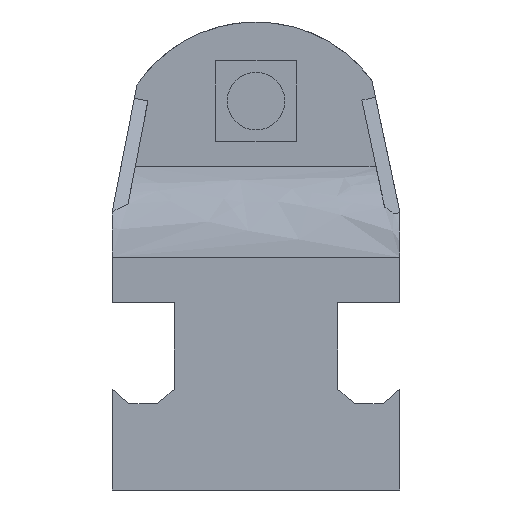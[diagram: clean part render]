
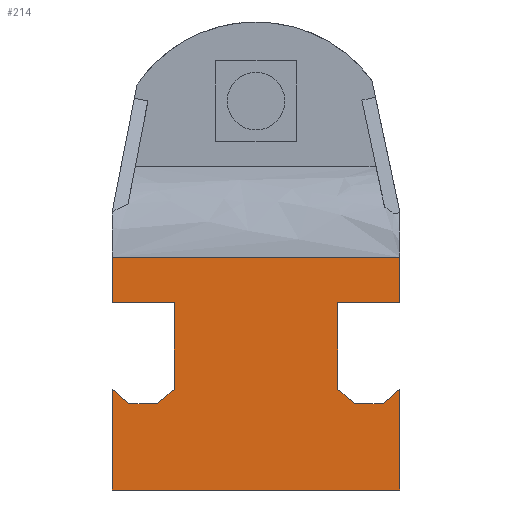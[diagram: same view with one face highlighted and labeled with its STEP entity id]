
A CAD part, front view. The second image highlights one B-rep face of the part: STEP entity #214.
In plain terms, the highlighted planar face has unit normal (0, -1, 0).
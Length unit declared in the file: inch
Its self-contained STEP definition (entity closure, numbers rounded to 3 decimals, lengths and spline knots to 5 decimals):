
#214=ADVANCED_FACE('',(#475),#476,.T.);
#475=FACE_OUTER_BOUND('',#845,.T.);
#476=PLANE('',#846);
#845=EDGE_LOOP('',(#1393,#1394,#1395,#1396,#1397,#1398,#1399,#1400,#1401,#1402,#1403,#1404,#1405,#1406,#1407,#1408));
#846=AXIS2_PLACEMENT_3D('',#1409,#1410,#1411);
#1393=ORIENTED_EDGE('',*,*,#2172,.T.);
#1394=ORIENTED_EDGE('',*,*,#2173,.T.);
#1395=ORIENTED_EDGE('',*,*,#2174,.T.);
#1396=ORIENTED_EDGE('',*,*,#2175,.T.);
#1397=ORIENTED_EDGE('',*,*,#2081,.T.);
#1398=ORIENTED_EDGE('',*,*,#2098,.T.);
#1399=ORIENTED_EDGE('',*,*,#2111,.T.);
#1400=ORIENTED_EDGE('',*,*,#2141,.F.);
#1401=ORIENTED_EDGE('',*,*,#2176,.T.);
#1402=ORIENTED_EDGE('',*,*,#2177,.T.);
#1403=ORIENTED_EDGE('',*,*,#2045,.T.);
#1404=ORIENTED_EDGE('',*,*,#2178,.T.);
#1405=ORIENTED_EDGE('',*,*,#2179,.T.);
#1406=ORIENTED_EDGE('',*,*,#2180,.T.);
#1407=ORIENTED_EDGE('',*,*,#2181,.T.);
#1408=ORIENTED_EDGE('',*,*,#2168,.T.);
#1409=CARTESIAN_POINT('',(-0.00008,0.,0.50527));
#1410=DIRECTION('',(0.0,-1.0,0.0));
#1411=DIRECTION('',(0.0,0.0,-1.0));
#2045=EDGE_CURVE('',#2434,#2432,#2435,.T.);
#2081=EDGE_CURVE('',#2497,#2495,#2498,.T.);
#2098=EDGE_CURVE('',#2495,#2522,#2524,.T.);
#2111=EDGE_CURVE('',#2522,#2543,#2545,.T.);
#2141=EDGE_CURVE('',#2593,#2543,#2595,.T.);
#2168=EDGE_CURVE('',#2636,#2634,#2637,.T.);
#2172=EDGE_CURVE('',#2634,#2642,#2643,.T.);
#2173=EDGE_CURVE('',#2642,#2644,#2645,.T.);
#2174=EDGE_CURVE('',#2644,#2646,#2647,.T.);
#2175=EDGE_CURVE('',#2646,#2497,#2648,.T.);
#2176=EDGE_CURVE('',#2593,#2649,#2650,.T.);
#2177=EDGE_CURVE('',#2649,#2434,#2651,.T.);
#2178=EDGE_CURVE('',#2432,#2652,#2653,.T.);
#2179=EDGE_CURVE('',#2652,#2654,#2655,.T.);
#2180=EDGE_CURVE('',#2654,#2656,#2657,.T.);
#2181=EDGE_CURVE('',#2656,#2636,#2658,.T.);
#2432=VERTEX_POINT('',#3005);
#2434=VERTEX_POINT('',#3008);
#2435=LINE('',#3009,#3010);
#2495=VERTEX_POINT('',#3115);
#2497=VERTEX_POINT('',#3118);
#2498=LINE('',#3119,#3120);
#2522=VERTEX_POINT('',#3159);
#2524=LINE('',#3162,#3163);
#2543=VERTEX_POINT('',#3196);
#2545=LINE('',#3201,#3202);
#2593=VERTEX_POINT('',#3327);
#2595=LINE('',#3332,#3333);
#2634=VERTEX_POINT('',#3420);
#2636=VERTEX_POINT('',#3423);
#2637=LINE('',#3424,#3425);
#2642=VERTEX_POINT('',#3432);
#2643=LINE('',#3433,#3434);
#2644=VERTEX_POINT('',#3435);
#2645=LINE('',#3436,#3437);
#2646=VERTEX_POINT('',#3438);
#2647=LINE('',#3439,#3440);
#2648=LINE('',#3441,#3442);
#2649=VERTEX_POINT('',#3443);
#2650=LINE('',#3444,#3445);
#2651=LINE('',#3446,#3447);
#2652=VERTEX_POINT('',#3448);
#2653=LINE('',#3449,#3450);
#2654=VERTEX_POINT('',#3451);
#2655=LINE('',#3452,#3453);
#2656=VERTEX_POINT('',#3454);
#2657=LINE('',#3455,#3456);
#2658=LINE('',#3457,#3458);
#3005=CARTESIAN_POINT('',(0.26997,0.,0.43764));
#3008=CARTESIAN_POINT('',(0.26997,0.,0.81257));
#3009=CARTESIAN_POINT('',(0.26997,0.,0.56519));
#3010=VECTOR('',#3934,1.);
#3115=CARTESIAN_POINT('',(0.97984,0.,0.81257));
#3118=CARTESIAN_POINT('',(0.97984,0.,0.43764));
#3119=CARTESIAN_POINT('',(0.97984,0.,0.56519));
#3120=VECTOR('',#3957,1.);
#3159=CARTESIAN_POINT('',(1.24981,0.,0.81257));
#3162=CARTESIAN_POINT('',(0.55737,0.,0.81257));
#3163=VECTOR('',#3968,1.0);
#3196=CARTESIAN_POINT('',(1.24981,0.,1.01054));
#3201=CARTESIAN_POINT('',(1.24981,0.,0.80741));
#3202=VECTOR('',#3974,1.);
#3327=CARTESIAN_POINT('',(0.,0.,1.01054));
#3332=CARTESIAN_POINT('',(-0.00008,0.,1.01054));
#3333=VECTOR('',#3988,1.0);
#3420=CARTESIAN_POINT('',(1.24981,0.,0.));
#3423=CARTESIAN_POINT('',(0.,0.,0.));
#3424=CARTESIAN_POINT('',(-0.00008,0.,0.));
#3425=VECTOR('',#4004,1.0);
#3432=CARTESIAN_POINT('',(1.24981,0.,0.43764));
#3433=CARTESIAN_POINT('',(1.24981,0.,0.34821));
#3434=VECTOR('',#4007,1.);
#3435=CARTESIAN_POINT('',(1.1773,0.,0.37516));
#3436=CARTESIAN_POINT('',(0.88978,0.,0.12738));
#3437=VECTOR('',#4008,1.);
#3438=CARTESIAN_POINT('',(1.05235,0.,0.37516));
#3439=CARTESIAN_POINT('',(0.55737,0.,0.37516));
#3440=VECTOR('',#4009,1.0);
#3441=CARTESIAN_POINT('',(0.70009,0.,0.67872));
#3442=VECTOR('',#4010,1.0);
#3443=CARTESIAN_POINT('',(0.,0.,0.81257));
#3444=CARTESIAN_POINT('',(0.,0.,0.80741));
#3445=VECTOR('',#4011,1.);
#3446=CARTESIAN_POINT('',(0.06745,0.,0.81257));
#3447=VECTOR('',#4012,1.0);
#3448=CARTESIAN_POINT('',(0.19746,0.,0.37516));
#3449=CARTESIAN_POINT('',(0.19108,0.,0.36966));
#3450=VECTOR('',#4013,1.0);
#3451=CARTESIAN_POINT('',(0.0725,0.,0.37516));
#3452=CARTESIAN_POINT('',(0.06745,0.,0.37516));
#3453=VECTOR('',#4014,1.0);
#3454=CARTESIAN_POINT('',(0.,0.,0.43764));
#3455=CARTESIAN_POINT('',(0.00138,0.,0.43645));
#3456=VECTOR('',#4015,1.);
#3457=CARTESIAN_POINT('',(0.,0.,0.34821));
#3458=VECTOR('',#4016,1.);
#3934=DIRECTION('',(0.0,0.0,-1.0));
#3957=DIRECTION('',(0.0,0.0,1.0));
#3968=DIRECTION('',(1.0,0.0,0.0));
#3974=DIRECTION('',(0.0,0.0,1.0));
#3988=DIRECTION('',(1.0,0.0,0.0));
#4004=DIRECTION('',(1.0,0.0,0.0));
#4007=DIRECTION('',(0.0,0.0,1.0));
#4008=DIRECTION('',(-0.758,-0.0,-0.653));
#4009=DIRECTION('',(-1.0,-0.0,-0.0));
#4010=DIRECTION('',(-0.758,0.0,0.653));
#4011=DIRECTION('',(0.0,0.0,-1.0));
#4012=DIRECTION('',(1.0,0.0,0.0));
#4013=DIRECTION('',(-0.758,-0.0,-0.653));
#4014=DIRECTION('',(-1.0,-0.0,-0.0));
#4015=DIRECTION('',(-0.757,0.0,0.653));
#4016=DIRECTION('',(0.0,0.0,-1.0));
